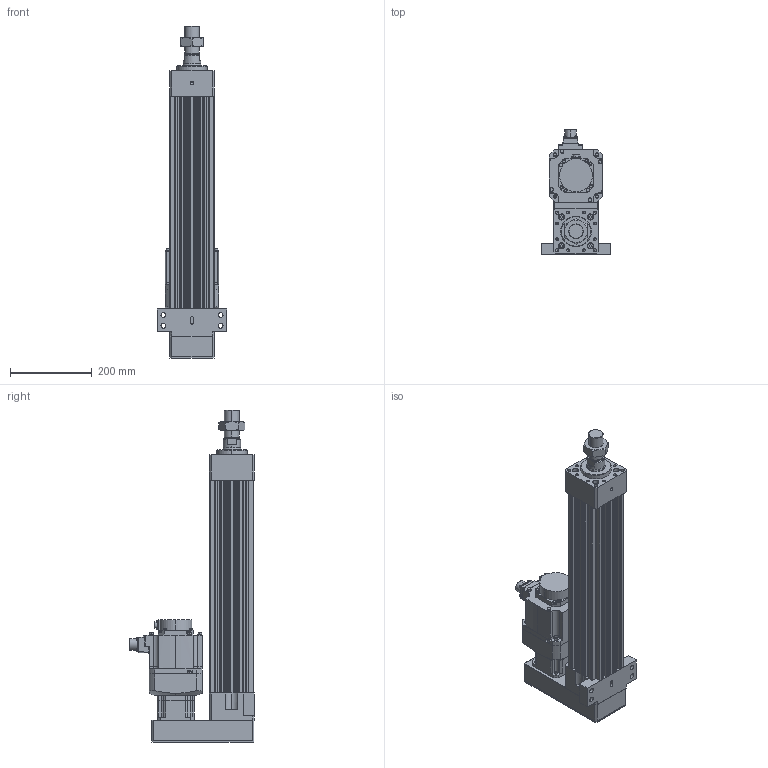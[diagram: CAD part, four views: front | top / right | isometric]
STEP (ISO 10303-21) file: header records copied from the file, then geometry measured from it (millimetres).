
FILE_DESCRIPTION (( 'STEP AP203' ), '1' );
FILE_NAME ('HES110NS(HS)-P350-W010G00-M-FFC.STEP', '2023-01-26T10:09:14', ( 'tms' ), ( '' ), 'SwSTEP 2.0', 'SolidWorks 2013', '' );
FILE_SCHEMA (( 'CONFIG_CONTROL_DESIGN' ));
Length unit declared in the file: millimetre
Products named in the file (8): HES110 ROD M ST350; HES110-P350-G090-FFC; AB0901; AB090-003[HG-SR102B]; HG-SR102; HES110NS(HS)-P350-W010G00-M-FFC; P0401301004; M36X1.5P
Assembly tree (7 placements, depth 3):
  HES110NS(HS)-P350-W010G00-M-FFC
    HES110-P350-G090-FFC
    HES110 ROD M ST350
    M36X1.5P
    AB090-003[HG-SR102B]
      AB0901
      P0401301004
    HG-SR102
Bounding box: 170 x 304.99 x 813 mm (x, y, z)
Volume: 7722140.8 mm3; surface area: 976574.8 mm2
Topology: 4 solids, 11 shells, 1111 faces, 2835 edges, 1826 vertices
Faces by surface type: cylinder 519, plane 486, cone 94, bspline 8, torus 4
Entity records: 35472 total; most frequent: CARTESIAN_POINT 6938, DIRECTION 6110, ORIENTED_EDGE 5574, EDGE_CURVE 2797, AXIS2_PLACEMENT_3D 2269, VERTEX_POINT 1826, LINE 1572, VECTOR 1572
